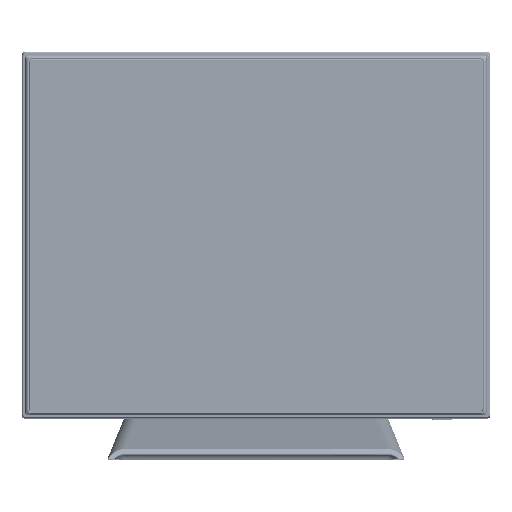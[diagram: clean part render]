
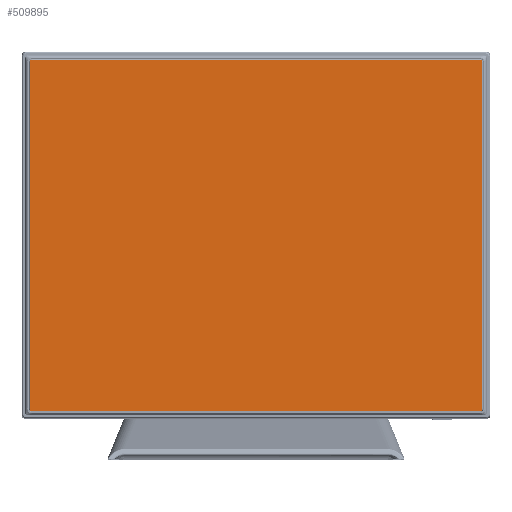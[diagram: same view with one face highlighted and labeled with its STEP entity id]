
A CAD part, top view. The second image highlights one B-rep face of the part: STEP entity #509895.
In plain terms, the highlighted planar face has unit normal (0, 0, 1).
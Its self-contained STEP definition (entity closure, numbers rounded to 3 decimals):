
#433 = CARTESIAN_POINT ( 'NONE',  ( 168.032, 131.77, -62.4 ) ) ;
#10271 = CARTESIAN_POINT ( 'NONE',  ( 167.77, -131.77, -62.4 ) ) ;
#10517 = CARTESIAN_POINT ( 'NONE',  ( 169.77, 129.77, -62.4 ) ) ;
#11845 = CARTESIAN_POINT ( 'NONE',  ( -168.032, -131.77, -62.4 ) ) ;
#13713 = EDGE_CURVE ( 'NONE', #154089, #485337, #50004, .T. ) ;
#14686 = CARTESIAN_POINT ( 'NONE',  ( -169.77, 129.77, -62.4 ) ) ;
#16803 = CARTESIAN_POINT ( 'NONE',  ( -169.517, 130.777, -62.4 ) ) ;
#23085 = ORIENTED_EDGE ( 'NONE', *, *, #330707, .F. ) ;
#43408 = CARTESIAN_POINT ( 'NONE',  ( -169.77, -129.77, -62.4 ) ) ;
#50004 = B_SPLINE_CURVE_WITH_KNOTS ( 'NONE', 3,
 ( #460832, #201889, #287262, #16803, #375544, #69569, #513576, #516492, #240229, #151963 ),
 .UNSPECIFIED., .F., .F.,
 ( 4, 2, 2, 2, 4 ),
 ( 0., 0.25, 0.5, 0.75, 1. ),
 .UNSPECIFIED. ) ;
#50325 = CARTESIAN_POINT ( 'NONE',  ( 168.777, 131.517, -62.4 ) ) ;
#51429 = CARTESIAN_POINT ( 'NONE',  ( 169.77, -129.77, -62.4 ) ) ;
#53704 = B_SPLINE_CURVE_WITH_KNOTS ( 'NONE', 3,
 ( #420097, #146647, #108273, #237782 ),
 .UNSPECIFIED., .F., .F.,
 ( 4, 4 ),
 ( 0., 1. ),
 .UNSPECIFIED. ) ;
#58200 = ORIENTED_EDGE ( 'NONE', *, *, #281741, .F. ) ;
#58807 = VERTEX_POINT ( 'NONE', #85989 ) ;
#60427 = FACE_OUTER_BOUND ( 'NONE', #89493, .T. ) ;
#67961 = EDGE_CURVE ( 'NONE', #141355, #197391, #53704, .T. ) ;
#69373 = B_SPLINE_CURVE_WITH_KNOTS ( 'NONE', 3,
 ( #43408, #87474, #266843, #175673 ),
 .UNSPECIFIED., .F., .F.,
 ( 4, 4 ),
 ( 0., 1. ),
 .UNSPECIFIED. ) ;
#69569 = CARTESIAN_POINT ( 'NONE',  ( -168.999, 131.369, -62.4 ) ) ;
#85989 = CARTESIAN_POINT ( 'NONE',  ( 169.77, -129.77, -62.4 ) ) ;
#87474 = CARTESIAN_POINT ( 'NONE',  ( -169.77, -43.257, -62.4 ) ) ;
#89493 = EDGE_LOOP ( 'NONE', ( #457561, #309807, #153435, #185982, #23085, #500808, #369866, #58200 ) ) ;
#102861 = CARTESIAN_POINT ( 'NONE',  ( -167.77, -131.77, -62.4 ) ) ;
#107371 = DIRECTION ( 'NONE',  ( 1., 0., 0. ) ) ;
#108273 = CARTESIAN_POINT ( 'NONE',  ( -55.923, -131.77, -62.4 ) ) ;
#110605 = CARTESIAN_POINT ( 'NONE',  ( -55.923, 131.77, -62.4 ) ) ;
#114170 = EDGE_CURVE ( 'NONE', #446246, #58807, #324941, .T. ) ;
#118727 = CARTESIAN_POINT ( 'NONE',  ( 169.369, -130.999, -62.4 ) ) ;
#124528 = CARTESIAN_POINT ( 'NONE',  ( 169.77, -130.032, -62.4 ) ) ;
#134233 = B_SPLINE_CURVE_WITH_KNOTS ( 'NONE', 3,
 ( #389330, #124528, #571556, #303979, #118727, #298177, #218622, #207012, #530286, #486177 ),
 .UNSPECIFIED., .F., .F.,
 ( 4, 2, 2, 2, 4 ),
 ( 0., 0.25, 0.5, 0.75, 1. ),
 .UNSPECIFIED. ) ;
#135550 = CARTESIAN_POINT ( 'NONE',  ( 169.369, 130.999, -62.4 ) ) ;
#141355 = VERTEX_POINT ( 'NONE', #10271 ) ;
#146647 = CARTESIAN_POINT ( 'NONE',  ( 55.923, -131.77, -62.4 ) ) ;
#147001 = CARTESIAN_POINT ( 'NONE',  ( -168.999, -131.369, -62.4 ) ) ;
#151963 = CARTESIAN_POINT ( 'NONE',  ( -167.77, 131.77, -62.4 ) ) ;
#153435 = ORIENTED_EDGE ( 'NONE', *, *, #114170, .F. ) ;
#154089 = VERTEX_POINT ( 'NONE', #14686 ) ;
#169262 = CARTESIAN_POINT ( 'NONE',  ( -167.77, -131.77, -62.4 ) ) ;
#175673 = CARTESIAN_POINT ( 'NONE',  ( -169.77, 129.77, -62.4 ) ) ;
#176970 = CARTESIAN_POINT ( 'NONE',  ( 167.77, 131.77, -62.4 ) ) ;
#177936 = CARTESIAN_POINT ( 'NONE',  ( 169.77, 129.77, -62.4 ) ) ;
#179705 = CARTESIAN_POINT ( 'NONE',  ( 168.999, 131.369, -62.4 ) ) ;
#184635 = CARTESIAN_POINT ( 'NONE',  ( -169.77, -129.77, -62.4 ) ) ;
#185982 = ORIENTED_EDGE ( 'NONE', *, *, #431138, .F. ) ;
#197073 = CARTESIAN_POINT ( 'NONE',  ( 169.77, 129.77, -62.4 ) ) ;
#197391 = VERTEX_POINT ( 'NONE', #169262 ) ;
#201889 = CARTESIAN_POINT ( 'NONE',  ( -169.77, 130.032, -62.4 ) ) ;
#207012 = CARTESIAN_POINT ( 'NONE',  ( 168.293, -131.718, -62.4 ) ) ;
#218622 = CARTESIAN_POINT ( 'NONE',  ( 168.777, -131.517, -62.4 ) ) ;
#223656 = CARTESIAN_POINT ( 'NONE',  ( -169.718, -130.293, -62.4 ) ) ;
#237782 = CARTESIAN_POINT ( 'NONE',  ( -167.77, -131.77, -62.4 ) ) ;
#240229 = CARTESIAN_POINT ( 'NONE',  ( -168.032, 131.77, -62.4 ) ) ;
#241171 = CARTESIAN_POINT ( 'NONE',  ( 169.718, 130.293, -62.4 ) ) ;
#242633 = CARTESIAN_POINT ( 'NONE',  ( 0., 0., -62.4 ) ) ;
#257531 = CARTESIAN_POINT ( 'NONE',  ( -167.77, 131.77, -62.4 ) ) ;
#266222 = CARTESIAN_POINT ( 'NONE',  ( 169.77, 43.257, -62.4 ) ) ;
#266843 = CARTESIAN_POINT ( 'NONE',  ( -169.77, 43.257, -62.4 ) ) ;
#270726 = CARTESIAN_POINT ( 'NONE',  ( -168.293, -131.718, -62.4 ) ) ;
#281741 = EDGE_CURVE ( 'NONE', #197391, #286649, #317990, .T. ) ;
#283913 = PLANE ( 'NONE',  #360779 ) ;
#286649 = VERTEX_POINT ( 'NONE', #184635 ) ;
#287262 = CARTESIAN_POINT ( 'NONE',  ( -169.718, 130.293, -62.4 ) ) ;
#289685 = DIRECTION ( 'NONE',  ( 0., 0., 1. ) ) ;
#298177 = CARTESIAN_POINT ( 'NONE',  ( 168.999, -131.369, -62.4 ) ) ;
#303979 = CARTESIAN_POINT ( 'NONE',  ( 169.517, -130.777, -62.4 ) ) ;
#309704 = B_SPLINE_CURVE_WITH_KNOTS ( 'NONE', 3,
 ( #450222, #433, #497176, #50325, #179705, #135550, #335205, #241171, #470438, #197073 ),
 .UNSPECIFIED., .F., .F.,
 ( 4, 2, 2, 2, 4 ),
 ( 0., 0.25, 0.5, 0.75, 1. ),
 .UNSPECIFIED. ) ;
#309807 = ORIENTED_EDGE ( 'NONE', *, *, #500512, .F. ) ;
#317990 = B_SPLINE_CURVE_WITH_KNOTS ( 'NONE', 3,
 ( #102861, #11845, #270726, #458758, #147001, #499940, #538304, #223656, #450077, #403091 ),
 .UNSPECIFIED., .F., .F.,
 ( 4, 2, 2, 2, 4 ),
 ( 0., 0.25, 0.5, 0.75, 1. ),
 .UNSPECIFIED. ) ;
#324941 = B_SPLINE_CURVE_WITH_KNOTS ( 'NONE', 3,
 ( #177936, #266222, #363191, #51429 ),
 .UNSPECIFIED., .F., .F.,
 ( 4, 4 ),
 ( 0., 1. ),
 .UNSPECIFIED. ) ;
#330707 = EDGE_CURVE ( 'NONE', #485337, #521995, #457632, .T. ) ;
#335205 = CARTESIAN_POINT ( 'NONE',  ( 169.517, 130.777, -62.4 ) ) ;
#360779 = AXIS2_PLACEMENT_3D ( 'NONE', #242633, #289685, #107371 ) ;
#363191 = CARTESIAN_POINT ( 'NONE',  ( 169.77, -43.257, -62.4 ) ) ;
#369866 = ORIENTED_EDGE ( 'NONE', *, *, #576799, .F. ) ;
#375544 = CARTESIAN_POINT ( 'NONE',  ( -169.369, 130.999, -62.4 ) ) ;
#378322 = CARTESIAN_POINT ( 'NONE',  ( 55.923, 131.77, -62.4 ) ) ;
#389330 = CARTESIAN_POINT ( 'NONE',  ( 169.77, -129.77, -62.4 ) ) ;
#403091 = CARTESIAN_POINT ( 'NONE',  ( -169.77, -129.77, -62.4 ) ) ;
#420097 = CARTESIAN_POINT ( 'NONE',  ( 167.77, -131.77, -62.4 ) ) ;
#428506 = CARTESIAN_POINT ( 'NONE',  ( -167.77, 131.77, -62.4 ) ) ;
#431138 = EDGE_CURVE ( 'NONE', #521995, #446246, #309704, .T. ) ;
#446246 = VERTEX_POINT ( 'NONE', #10517 ) ;
#450077 = CARTESIAN_POINT ( 'NONE',  ( -169.77, -130.032, -62.4 ) ) ;
#450222 = CARTESIAN_POINT ( 'NONE',  ( 167.77, 131.77, -62.4 ) ) ;
#457561 = ORIENTED_EDGE ( 'NONE', *, *, #67961, .F. ) ;
#457632 = B_SPLINE_CURVE_WITH_KNOTS ( 'NONE', 3,
 ( #257531, #110605, #378322, #557636 ),
 .UNSPECIFIED., .F., .F.,
 ( 4, 4 ),
 ( 0., 1. ),
 .UNSPECIFIED. ) ;
#458758 = CARTESIAN_POINT ( 'NONE',  ( -168.777, -131.517, -62.4 ) ) ;
#460832 = CARTESIAN_POINT ( 'NONE',  ( -169.77, 129.77, -62.4 ) ) ;
#470438 = CARTESIAN_POINT ( 'NONE',  ( 169.77, 130.032, -62.4 ) ) ;
#485337 = VERTEX_POINT ( 'NONE', #428506 ) ;
#486177 = CARTESIAN_POINT ( 'NONE',  ( 167.77, -131.77, -62.4 ) ) ;
#497176 = CARTESIAN_POINT ( 'NONE',  ( 168.293, 131.718, -62.4 ) ) ;
#499940 = CARTESIAN_POINT ( 'NONE',  ( -169.369, -130.999, -62.4 ) ) ;
#500512 = EDGE_CURVE ( 'NONE', #58807, #141355, #134233, .T. ) ;
#500808 = ORIENTED_EDGE ( 'NONE', *, *, #13713, .F. ) ;
#509895 = ADVANCED_FACE ( 'NONE', ( #60427 ), #283913, .T. ) ;
#513576 = CARTESIAN_POINT ( 'NONE',  ( -168.777, 131.517, -62.4 ) ) ;
#516492 = CARTESIAN_POINT ( 'NONE',  ( -168.293, 131.718, -62.4 ) ) ;
#521995 = VERTEX_POINT ( 'NONE', #176970 ) ;
#530286 = CARTESIAN_POINT ( 'NONE',  ( 168.032, -131.77, -62.4 ) ) ;
#538304 = CARTESIAN_POINT ( 'NONE',  ( -169.517, -130.777, -62.4 ) ) ;
#557636 = CARTESIAN_POINT ( 'NONE',  ( 167.77, 131.77, -62.4 ) ) ;
#571556 = CARTESIAN_POINT ( 'NONE',  ( 169.718, -130.293, -62.4 ) ) ;
#576799 = EDGE_CURVE ( 'NONE', #286649, #154089, #69373, .T. ) ;
